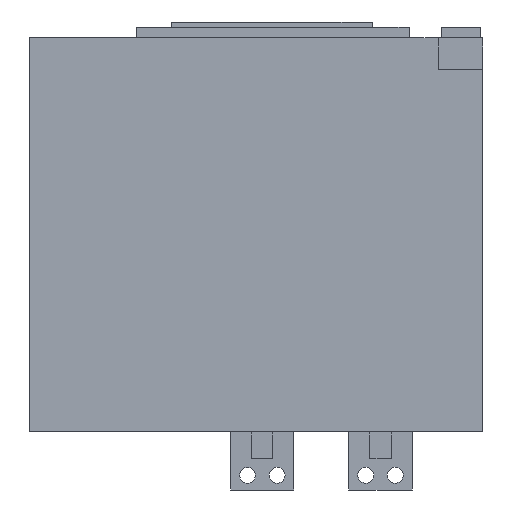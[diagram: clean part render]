
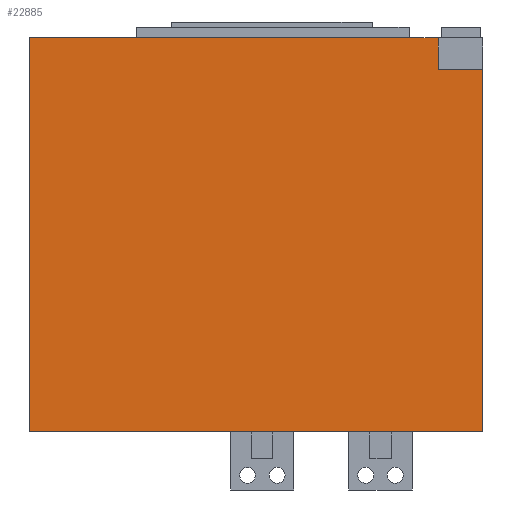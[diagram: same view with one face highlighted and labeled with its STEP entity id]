
A CAD part, left-side view. The second image highlights one B-rep face of the part: STEP entity #22885.
In plain terms, the highlighted planar face has unit normal (-1, 0, 0).
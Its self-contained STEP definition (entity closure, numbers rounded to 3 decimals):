
#1949 = LINE ( 'NONE', #31071, #14682 ) ;
#2345 = VERTEX_POINT ( 'NONE', #3339 ) ;
#2919 = CARTESIAN_POINT ( 'NONE',  ( -167.5, 430., 0. ) ) ;
#3339 = CARTESIAN_POINT ( 'NONE',  ( -167.5, 430., -373.5 ) ) ;
#3454 = VECTOR ( 'NONE', #11852, 1000. ) ;
#4239 = CARTESIAN_POINT ( 'NONE',  ( -167.5, 430.001, -30. ) ) ;
#5480 = LINE ( 'NONE', #12795, #33659 ) ;
#5994 = VERTEX_POINT ( 'NONE', #20602 ) ;
#6336 = EDGE_CURVE ( 'NONE', #21047, #15659, #26035, .T. ) ;
#6843 = CARTESIAN_POINT ( 'NONE',  ( -167.5, 0., -373.5 ) ) ;
#7397 = DIRECTION ( 'NONE',  ( 0., -1., 0. ) ) ;
#7525 = LINE ( 'NONE', #10686, #8376 ) ;
#7838 = ORIENTED_EDGE ( 'NONE', *, *, #13502, .T. ) ;
#7988 = ORIENTED_EDGE ( 'NONE', *, *, #6336, .F. ) ;
#8376 = VECTOR ( 'NONE', #24406, 1000. ) ;
#8798 = ORIENTED_EDGE ( 'NONE', *, *, #20873, .T. ) ;
#8803 = EDGE_CURVE ( 'NONE', #2345, #20160, #7525, .T. ) ;
#9689 = CARTESIAN_POINT ( 'NONE',  ( -167.5, 0., -30. ) ) ;
#10686 = CARTESIAN_POINT ( 'NONE',  ( -167.5, 0., -373.5 ) ) ;
#10814 = DIRECTION ( 'NONE',  ( -1., 0., 0. ) ) ;
#11852 = DIRECTION ( 'NONE',  ( 0., 0., 1. ) ) ;
#11956 = LINE ( 'NONE', #34281, #20146 ) ;
#12795 = CARTESIAN_POINT ( 'NONE',  ( -167.5, 42.5, -373.5 ) ) ;
#13502 = EDGE_CURVE ( 'NONE', #21047, #5994, #5480, .T. ) ;
#14682 = VECTOR ( 'NONE', #33920, 1000. ) ;
#15555 = DIRECTION ( 'NONE',  ( 0., 0., 1. ) ) ;
#15659 = VERTEX_POINT ( 'NONE', #9689 ) ;
#16043 = EDGE_CURVE ( 'NONE', #2345, #35392, #1949, .T. ) ;
#17924 = DIRECTION ( 'NONE',  ( 0., -1., 0. ) ) ;
#19507 = EDGE_CURVE ( 'NONE', #35392, #5994, #11956, .T. ) ;
#20146 = VECTOR ( 'NONE', #17924, 1000. ) ;
#20160 = VERTEX_POINT ( 'NONE', #6843 ) ;
#20602 = CARTESIAN_POINT ( 'NONE',  ( -167.5, 42.5, 0. ) ) ;
#20873 = EDGE_CURVE ( 'NONE', #20160, #15659, #31649, .T. ) ;
#21047 = VERTEX_POINT ( 'NONE', #24332 ) ;
#21670 = EDGE_LOOP ( 'NONE', ( #30576, #31792, #26732, #8798, #7988, #7838 ) ) ;
#22885 = ADVANCED_FACE ( 'NONE', ( #29037 ), #27241, .T. ) ;
#24332 = CARTESIAN_POINT ( 'NONE',  ( -167.5, 42.5, -30. ) ) ;
#24406 = DIRECTION ( 'NONE',  ( 0., -1., 0. ) ) ;
#24517 = CARTESIAN_POINT ( 'NONE',  ( -167.5, 0., -373.5 ) ) ;
#26035 = LINE ( 'NONE', #4239, #27741 ) ;
#26732 = ORIENTED_EDGE ( 'NONE', *, *, #8803, .T. ) ;
#27241 = PLANE ( 'NONE',  #31044 ) ;
#27741 = VECTOR ( 'NONE', #7397, 1000. ) ;
#28266 = CARTESIAN_POINT ( 'NONE',  ( -167.5, 0., -373.5 ) ) ;
#29037 = FACE_OUTER_BOUND ( 'NONE', #21670, .T. ) ;
#29990 = DIRECTION ( 'NONE',  ( 0., -1., 0. ) ) ;
#30576 = ORIENTED_EDGE ( 'NONE', *, *, #19507, .F. ) ;
#31044 = AXIS2_PLACEMENT_3D ( 'NONE', #24517, #10814, #29990 ) ;
#31071 = CARTESIAN_POINT ( 'NONE',  ( -167.5, 430., -373.5 ) ) ;
#31649 = LINE ( 'NONE', #28266, #3454 ) ;
#31792 = ORIENTED_EDGE ( 'NONE', *, *, #16043, .F. ) ;
#33659 = VECTOR ( 'NONE', #15555, 1000. ) ;
#33920 = DIRECTION ( 'NONE',  ( 0., 0., 1. ) ) ;
#34281 = CARTESIAN_POINT ( 'NONE',  ( -167.5, 0., 0. ) ) ;
#35392 = VERTEX_POINT ( 'NONE', #2919 ) ;
